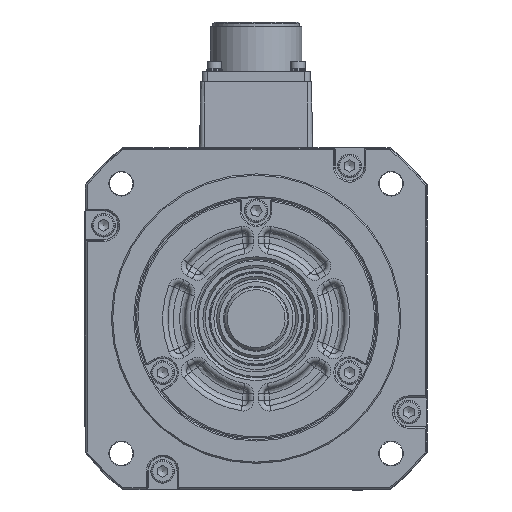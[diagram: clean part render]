
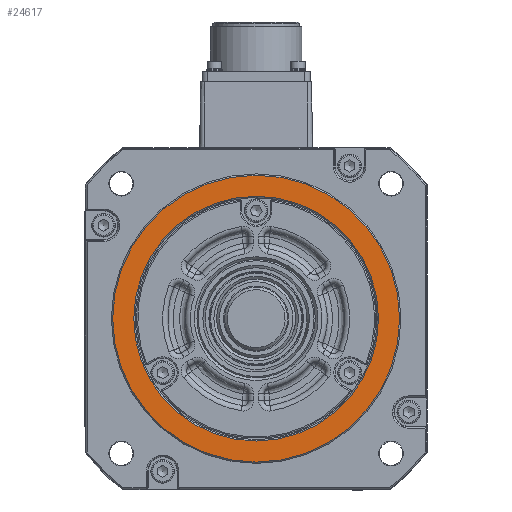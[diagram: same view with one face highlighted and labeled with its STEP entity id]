
A CAD part, front view. The second image highlights one B-rep face of the part: STEP entity #24617.
In plain terms, the highlighted planar face has unit normal (0, -1, 0).
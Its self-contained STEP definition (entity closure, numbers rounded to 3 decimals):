
#3637=CARTESIAN_POINT('',(54.5,-95.5,0.));
#3638=VERTEX_POINT('',#3637);
#3639=CARTESIAN_POINT('',(0.,-95.5,0.));
#3640=DIRECTION('',(0.0,1.0,0.0));
#3641=DIRECTION('',(-1.0,0.0,0.0));
#3642=AXIS2_PLACEMENT_3D('',#3639,#3640,#3641);
#3643=CIRCLE('',#3642,54.5);
#3644=EDGE_CURVE('',#3638,#3638,#3643,.T.);
#3685=CARTESIAN_POINT('',(46.5,-95.5,0.));
#3686=VERTEX_POINT('',#3685);
#3687=CARTESIAN_POINT('',(0.,-95.5,0.));
#3688=DIRECTION('',(0.0,-1.0,0.0));
#3689=DIRECTION('',(-1.0,0.0,0.0));
#3690=AXIS2_PLACEMENT_3D('',#3687,#3688,#3689);
#3691=CIRCLE('',#3690,46.5);
#3692=EDGE_CURVE('',#3686,#3686,#3691,.T.);
#24606=CARTESIAN_POINT('',(0.,-95.5,0.));
#24607=DIRECTION('',(0.0,-1.0,0.0));
#24608=DIRECTION('',(0.0,0.0,-1.0));
#24609=AXIS2_PLACEMENT_3D('',#24606,#24607,#24608);
#24610=PLANE('',#24609);
#24611=ORIENTED_EDGE('',*,*,#3644,.F.);
#24612=EDGE_LOOP('',(#24611));
#24613=FACE_OUTER_BOUND('',#24612,.T.);
#24614=ORIENTED_EDGE('',*,*,#3692,.F.);
#24615=EDGE_LOOP('',(#24614));
#24616=FACE_BOUND('',#24615,.T.);
#24617=ADVANCED_FACE('',(#24613,#24616),#24610,.T.);
